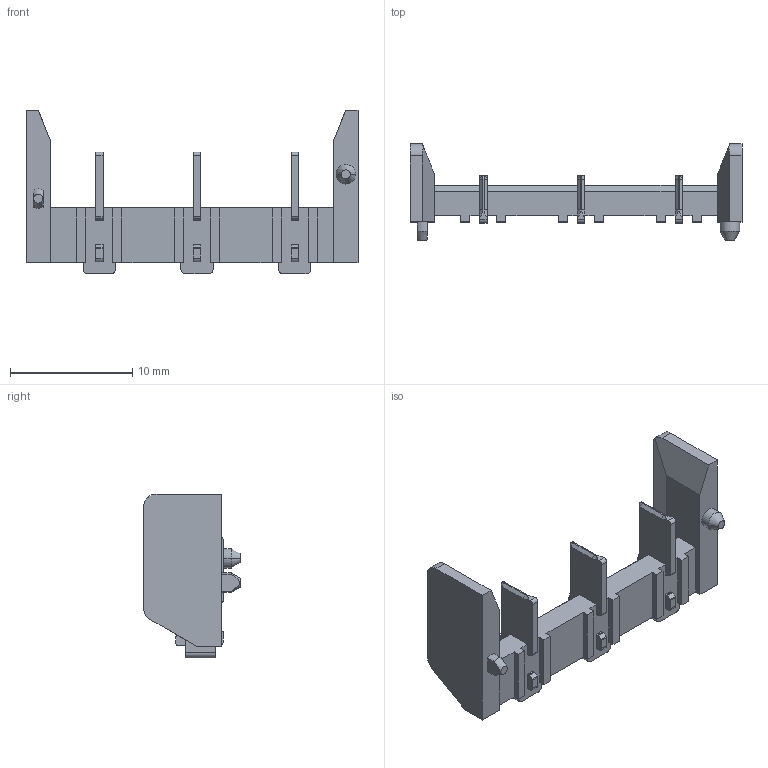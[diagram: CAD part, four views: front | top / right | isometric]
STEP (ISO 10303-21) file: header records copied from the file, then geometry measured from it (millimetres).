
FILE_DESCRIPTION((''),'2;1');
FILE_NAME('C-2318136-3','2018-03-05T',('workeradm'),('TE Connectivity Ltd.'),'CREO PARAMETRIC BY PTC INC, 2016050','CREO PARAMETRIC BY PTC INC, 2016050','');
FILE_SCHEMA(('AUTOMOTIVE_DESIGN { 1 0 10303 214 1 1 1 1 }'));
Length unit declared in the file: millimetre
Products named in the file (1): C-2318136-3
Bounding box: 27.2 x 7.9 x 13.4 mm (x, y, z)
Volume: 583.5 mm3; surface area: 916.1 mm2
Topology: 1 solids, 1 shells, 201 faces, 568 edges, 374 vertices
Faces by surface type: plane 135, cylinder 56, cone 10
Entity records: 6592 total; most frequent: CARTESIAN_POINT 1341, ORIENTED_EDGE 1136, DIRECTION 1018, EDGE_CURVE 568, VECTOR 428, LINE 428, VERTEX_POINT 374, AXIS2_PLACEMENT_3D 295
